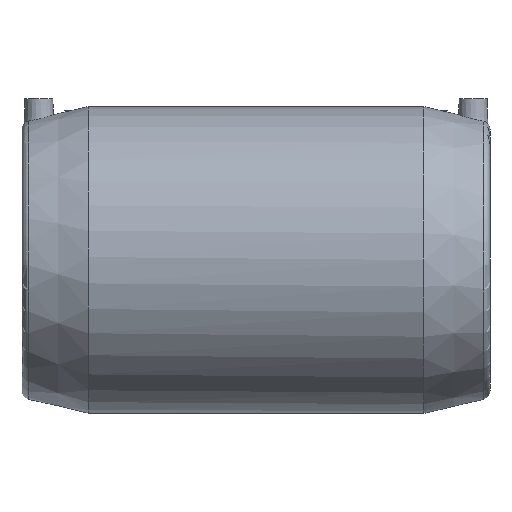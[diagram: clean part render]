
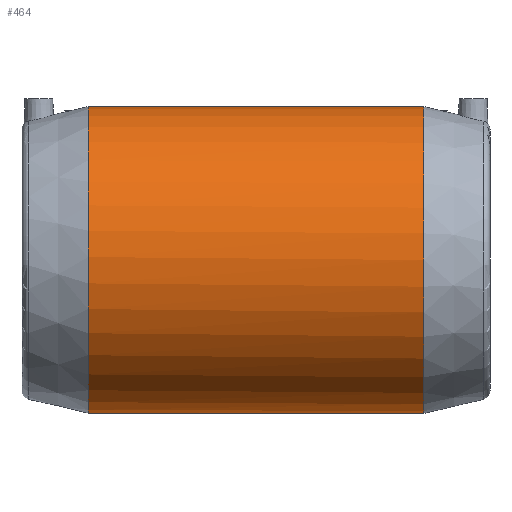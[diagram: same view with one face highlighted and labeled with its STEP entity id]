
A CAD part, front view. The second image highlights one B-rep face of the part: STEP entity #464.
In plain terms, the highlighted cylindrical face has radius 104.5 mm (diameter 209 mm), a full revolution.
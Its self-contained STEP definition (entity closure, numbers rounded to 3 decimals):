
#53=CYLINDRICAL_SURFACE('',#535,104.5);
#67=B_SPLINE_CURVE_WITH_KNOTS('',3,(#1239,#1240,#1241,#1242,#1243,#1244,
#1245,#1246,#1247,#1248,#1249,#1250,#1251,#1252,#1253,#1254,#1255,#1256,
#1257,#1258,#1259,#1260,#1261,#1262,#1263,#1264,#1265,#1266,#1267,#1268,
#1269,#1270,#1271,#1272,#1273,#1274,#1275,#1276,#1277,#1278,#1279,#1280,
#1281,#1282,#1283,#1284,#1285,#1286,#1287,#1288,#1289,#1290,#1291,#1292,
#1293,#1294,#1295,#1296,#1297,#1298,#1299,#1300,#1301,#1302,#1303,#1304,
#1305,#1306,#1307,#1308,#1309,#1310),.UNSPECIFIED.,.T.,.F.,(1,1,1,1,1,1,
1,1,1,1,1,1,1,1,1,1,1,1,1,1,1,1,1,1,1,1,1,1,1,1,1,1,1,1,1,1,1,1,1,1,1,1,
1,1,1,1,1,1,1,1,1,1,1,1,1,1,1,1,1,1,1,1,1,1,1,1,1,1,1,1,1,1,1,1,1,1),(-0.027,
-0.018,-0.009,0.,0.009,
0.018,0.027,0.036,0.045,
0.054,0.063,0.072,0.081,
0.09,0.099,0.108,0.117,
0.122,0.127,0.136,0.14,
0.145,0.154,0.163,0.172,
0.181,0.19,0.199,0.208,
0.217,0.226,0.235,0.244,
0.249,0.253,0.262,0.271,
0.28,0.289,0.298,0.303,
0.307,0.316,0.325,0.334,
0.343,0.352,0.361,0.371,
0.38,0.389,0.398,0.407,
0.416,0.425,0.434,0.443,
0.452,0.461,0.47,0.479,
0.488,0.497,0.506,0.515,
0.524,0.533,0.542,0.547,0.551,
0.56,0.569,0.578,0.587,
0.596,0.605),.UNSPECIFIED.);
#140=ORIENTED_EDGE('',*,*,#204,.T.);
#141=ORIENTED_EDGE('',*,*,#203,.F.);
#142=ORIENTED_EDGE('',*,*,#207,.T.);
#203=EDGE_CURVE('',#249,#249,#277,.T.);
#204=EDGE_CURVE('',#250,#250,#67,.T.);
#207=EDGE_CURVE('',#252,#252,#280,.T.);
#249=VERTEX_POINT('',#1016);
#250=VERTEX_POINT('',#1311);
#252=VERTEX_POINT('',#1319);
#277=CIRCLE('',#530,104.5);
#280=CIRCLE('',#536,104.5);
#338=EDGE_LOOP('',(#140));
#339=EDGE_LOOP('',(#141));
#340=EDGE_LOOP('',(#142));
#408=FACE_BOUND('',#338,.T.);
#409=FACE_BOUND('',#339,.T.);
#410=FACE_BOUND('',#340,.T.);
#464=ADVANCED_FACE('',(#408,#409,#410),#53,.T.);
#530=AXIS2_PLACEMENT_3D('',#1015,#638,#639);
#535=AXIS2_PLACEMENT_3D('',#1317,#648,#649);
#536=AXIS2_PLACEMENT_3D('',#1318,#650,#651);
#638=DIRECTION('',(-1.,0.,0.));
#639=DIRECTION('',(0.,0.,1.));
#648=DIRECTION('',(-1.,0.,0.));
#649=DIRECTION('',(0.,0.,1.));
#650=DIRECTION('',(-1.,0.,0.));
#651=DIRECTION('',(0.,0.,1.));
#1015=CARTESIAN_POINT('',(-114.5,0.,0.));
#1016=CARTESIAN_POINT('',(-114.5,0.,104.5));
#1239=CARTESIAN_POINT('',(87.663,104.237,-9.077));
#1240=CARTESIAN_POINT('',(88.168,104.631,0.009));
#1241=CARTESIAN_POINT('',(87.666,104.239,9.041));
#1242=CARTESIAN_POINT('',(86.172,103.075,17.93));
#1243=CARTESIAN_POINT('',(83.801,101.243,26.349));
#1244=CARTESIAN_POINT('',(80.568,98.776,34.448));
#1245=CARTESIAN_POINT('',(76.611,95.807,41.976));
#1246=CARTESIAN_POINT('',(72.034,92.449,48.914));
#1247=CARTESIAN_POINT('',(66.824,88.739,55.343));
#1248=CARTESIAN_POINT('',(61.156,84.856,61.113));
#1249=CARTESIAN_POINT('',(55.034,80.865,66.292));
#1250=CARTESIAN_POINT('',(48.406,76.819,70.927));
#1251=CARTESIAN_POINT('',(41.378,72.895,74.94));
#1252=CARTESIAN_POINT('',(33.958,69.228,78.326));
#1253=CARTESIAN_POINT('',(27.376,66.494,80.633));
#1254=CARTESIAN_POINT('',(21.827,64.605,82.143));
#1255=CARTESIAN_POINT('',(16.188,62.99,83.391));
#1256=CARTESIAN_POINT('',(10.383,61.826,84.251));
#1257=CARTESIAN_POINT('',(4.356,61.221,84.689));
#1258=CARTESIAN_POINT('',(-1.637,61.031,84.826));
#1259=CARTESIAN_POINT('',(-9.065,61.552,84.453));
#1260=CARTESIAN_POINT('',(-17.908,63.349,83.125));
#1261=CARTESIAN_POINT('',(-26.193,66.,81.051));
#1262=CARTESIAN_POINT('',(-34.123,69.3,78.263));
#1263=CARTESIAN_POINT('',(-41.595,73.01,74.828));
#1264=CARTESIAN_POINT('',(-48.559,76.91,70.826));
#1265=CARTESIAN_POINT('',(-55.099,80.906,66.241));
#1266=CARTESIAN_POINT('',(-61.271,84.932,61.01));
#1267=CARTESIAN_POINT('',(-66.934,88.817,55.215));
#1268=CARTESIAN_POINT('',(-72.04,92.454,48.899));
#1269=CARTESIAN_POINT('',(-75.837,95.239,43.151));
#1270=CARTESIAN_POINT('',(-78.577,97.281,38.237));
#1271=CARTESIAN_POINT('',(-81.116,99.193,33.081));
#1272=CARTESIAN_POINT('',(-83.786,101.232,26.388));
#1273=CARTESIAN_POINT('',(-86.169,103.073,17.953));
#1274=CARTESIAN_POINT('',(-87.666,104.239,9.03));
#1275=CARTESIAN_POINT('',(-88.162,104.627,0.113));
#1276=CARTESIAN_POINT('',(-87.764,104.315,-7.376));
#1277=CARTESIAN_POINT('',(-86.943,103.676,-13.348));
#1278=CARTESIAN_POINT('',(-85.818,102.802,-19.153));
#1279=CARTESIAN_POINT('',(-83.863,101.291,-26.165));
#1280=CARTESIAN_POINT('',(-80.658,98.844,-34.253));
#1281=CARTESIAN_POINT('',(-76.702,95.875,-41.823));
#1282=CARTESIAN_POINT('',(-72.144,92.529,-48.761));
#1283=CARTESIAN_POINT('',(-66.955,88.831,-55.197));
#1284=CARTESIAN_POINT('',(-61.272,84.934,-61.006));
#1285=CARTESIAN_POINT('',(-55.155,80.942,-66.197));
#1286=CARTESIAN_POINT('',(-48.563,76.911,-70.828));
#1287=CARTESIAN_POINT('',(-41.499,72.958,-74.879));
#1288=CARTESIAN_POINT('',(-34.074,69.281,-78.279));
#1289=CARTESIAN_POINT('',(-26.187,65.993,-81.057));
#1290=CARTESIAN_POINT('',(-17.748,63.308,-83.156));
#1291=CARTESIAN_POINT('',(-9.052,61.55,-84.454));
#1292=CARTESIAN_POINT('',(0.059,60.921,-84.905));
#1293=CARTESIAN_POINT('',(8.962,61.54,-84.461));
#1294=CARTESIAN_POINT('',(17.815,63.323,-83.145));
#1295=CARTESIAN_POINT('',(26.125,65.975,-81.071));
#1296=CARTESIAN_POINT('',(34.037,69.261,-78.298));
#1297=CARTESIAN_POINT('',(41.544,72.982,-74.856));
#1298=CARTESIAN_POINT('',(48.516,76.885,-70.853));
#1299=CARTESIAN_POINT('',(55.062,80.883,-66.269));
#1300=CARTESIAN_POINT('',(61.216,84.896,-61.061));
#1301=CARTESIAN_POINT('',(66.916,88.804,-55.238));
#1302=CARTESIAN_POINT('',(72.026,92.444,-48.917));
#1303=CARTESIAN_POINT('',(76.577,95.782,-42.032));
#1304=CARTESIAN_POINT('',(79.878,98.257,-35.767));
#1305=CARTESIAN_POINT('',(82.171,99.999,-30.437));
#1306=CARTESIAN_POINT('',(84.177,101.534,-25.002));
#1307=CARTESIAN_POINT('',(86.163,103.069,-17.971));
#1308=CARTESIAN_POINT('',(87.663,104.237,-9.077));
#1309=CARTESIAN_POINT('',(88.168,104.631,0.009));
#1310=CARTESIAN_POINT('',(87.666,104.239,9.041));
#1311=CARTESIAN_POINT('',(88.,104.5,0.));
#1317=CARTESIAN_POINT('',(-60.,0.,0.));
#1318=CARTESIAN_POINT('',(114.5,0.,0.));
#1319=CARTESIAN_POINT('',(114.5,0.,104.5));
